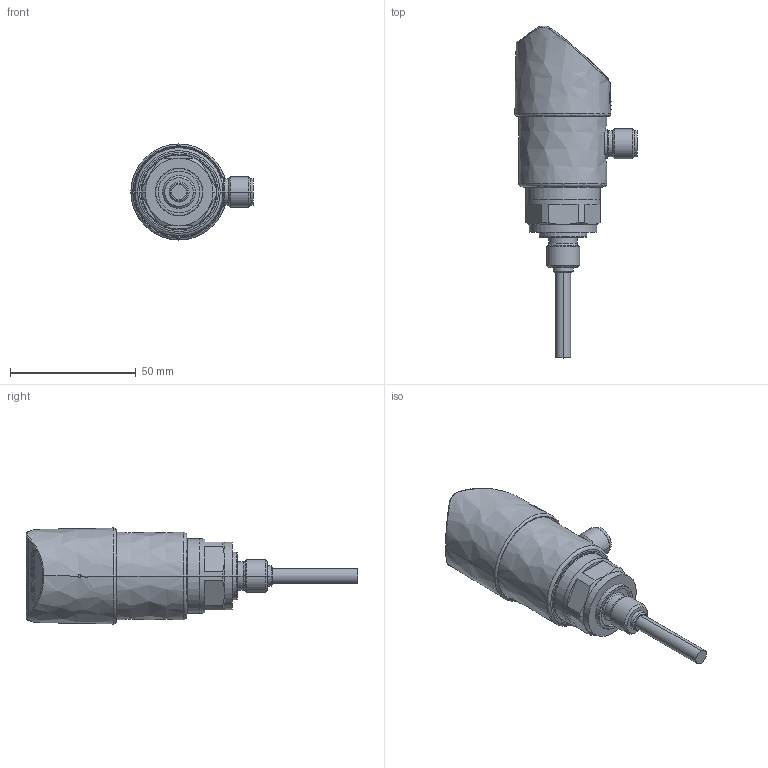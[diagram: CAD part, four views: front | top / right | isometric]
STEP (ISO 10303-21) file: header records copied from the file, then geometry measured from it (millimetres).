
FILE_DESCRIPTION((''),'2;1');
FILE_NAME('14153579_G1-4A________SW0001','2016-02-04T',('EicherN'),(''),'CREO PARAMETRIC BY PTC INC, 2015290','CREO PARAMETRIC BY PTC INC, 2015290','');
FILE_SCHEMA(('AUTOMOTIVE_DESIGN { 1 0 10303 214 1 1 1 1 }'));
Products named in the file (1): 14153579_G1-4A________SW0001
Bounding box: 48.61 x 132.04 x 38.21 mm (x, y, z)
Volume: 61079.4 mm3; surface area: 18066.9 mm2
Topology: 6 solids, 8 shells, 1204 faces, 3287 edges, 2147 vertices
Faces by surface type: bspline 1204
Entity records: 61693 total; most frequent: CARTESIAN_POINT 28239, ORIENTED_EDGE 6566, EDGE_CURVE 3283, DIRECTION 2515, VERTEX_POINT 2145, VECTOR 1945, LINE 1945, EDGE_LOOP 1264
